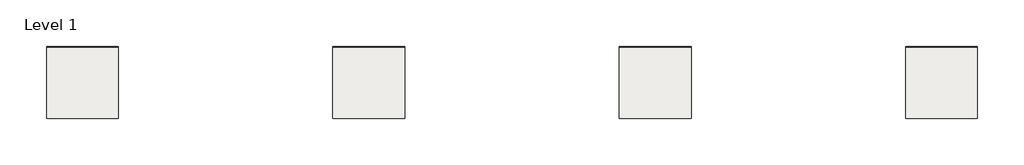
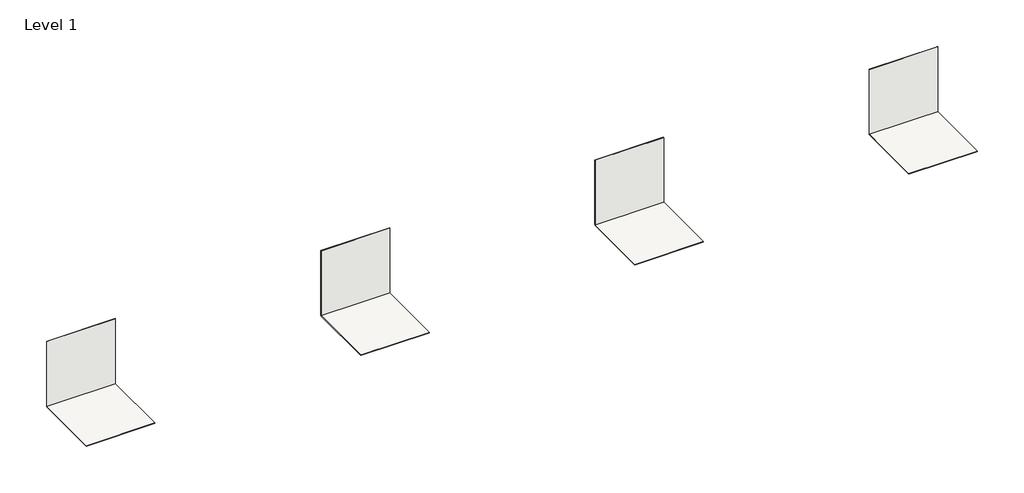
# One storey: 8 coverings.
"""IFC4 building model written with IfcOpenShell, lengths in millimetres."""

from ifc_helpers import new_model, si_unit, frame, origin, origin_with_axes, place, context, project, spatial, polyline, outline, extrude, element, save

model = new_model("IFC4")

# Units and contexts
model_context = context("Model", 3, world=origin())
ifc_project = project(units=[si_unit("LENGTHUNIT", "METRE", prefix="MILLI")], contexts=[model_context])

# Site, building, storey
site = spatial("IfcSite", under=ifc_project)
building = spatial("IfcBuilding", under=site)
storey = spatial("IfcBuildingStorey", under=building, Name="Level 1", Elevation=0.0)

# Coverings
placement = place(None, origin())
element("IfcCovering", 1, ObjectType="REVIGRES-ELEMENTS-STRATUS36-29.5x29.5-SOFT-MIST", at=placement, inside=storey, context=model_context, shape_type="SweptSolid", body=[
    extrude(outline(polyline([(13471.0931801, -9106.6692473), (12471.0931801, -9106.6692473), (12471.0931801, -9098.1692473), (13471.0931801, -9098.1692473), (13471.0931801, -9106.6692473)])), origin_with_axes(), (0.0, 0.0, 1.0), 1000.0),
])
element("IfcCovering", 2, ObjectType="REVIGRES-ELEMENTS-STRATUS36-29.5x29.5-SOFT-MIST", at=placement, inside=storey, context=model_context, shape_type="SweptSolid", body=[
    extrude(outline(polyline([(13471.0931801, -9106.6692473), (13471.0931801, -10106.6692473), (12471.0931801, -10106.6692473), (12471.0931801, -9106.6692473), (13471.0931801, -9106.6692473)])), frame((0.0, 0.0, -8.5), z_axis=(0.0, 0.0, 1.0), x_axis=(1.0, 0.0, 0.0)), (0.0, 0.0, 1.0), 8.5),
])
element("IfcCovering", 3, ObjectType="REVIGRES-ELEMENTS-STRATUS36-29.5x29.5-SOFT-SMOKE", at=placement, inside=storey, context=model_context, shape_type="SweptSolid", body=[
    extrude(outline(polyline([(17471.0931801, -9106.6692473), (16471.0931801, -9106.6692473), (16471.0931801, -9098.1692473), (17471.0931801, -9098.1692473), (17471.0931801, -9106.6692473)])), origin_with_axes(), (0.0, 0.0, 1.0), 1000.0),
])
element("IfcCovering", 4, ObjectType="REVIGRES-ELEMENTS-STRATUS36-29.5x29.5-SOFT-SMOKE", at=placement, inside=storey, context=model_context, shape_type="SweptSolid", body=[
    extrude(outline(polyline([(17471.0931801, -9106.6692473), (17471.0931801, -10106.6692473), (16471.0931801, -10106.6692473), (16471.0931801, -9106.6692473), (17471.0931801, -9106.6692473)])), frame((0.0, 0.0, -8.5), z_axis=(0.0, 0.0, 1.0), x_axis=(1.0, 0.0, 0.0)), (0.0, 0.0, 1.0), 8.5),
])
element("IfcCovering", 5, ObjectType="REVIGRES-ELEMENTS-STRATUS36-29.5x29.5-SOFT-FOG", at=placement, inside=storey, context=model_context, shape_type="SweptSolid", body=[
    extrude(outline(polyline([(8471.0931801, -9098.1692473), (9471.0931801, -9098.1692473), (9471.0931801, -9106.6692473), (8471.0931801, -9106.6692473), (8471.0931801, -9098.1692473)])), origin_with_axes(), (0.0, 0.0, 1.0), 1000.0),
])
element("IfcCovering", 6, ObjectType="REVIGRES-ELEMENTS-STRATUS36-29.5x29.5-SOFT-FOG", at=placement, inside=storey, context=model_context, shape_type="SweptSolid", body=[
    extrude(outline(polyline([(8471.0931801, -9106.6692473), (9471.0931801, -9106.6692473), (9471.0931801, -10106.6692473), (8471.0931801, -10106.6692473), (8471.0931801, -9106.6692473)])), frame((0.0, 0.0, -8.5), z_axis=(0.0, 0.0, 1.0), x_axis=(1.0, 0.0, 0.0)), (0.0, 0.0, 1.0), 8.5),
])
element("IfcCovering", 7, ObjectType="REVIGRES-ELEMENTS-STRATUS36-29.5x29.5-SOFT-CARBON", at=placement, inside=storey, context=model_context, shape_type="SweptSolid", body=[
    extrude(outline(polyline([(4471.0931801, -9098.1692473), (5471.0931801, -9098.1692473), (5471.0931801, -9106.6692473), (4471.0931801, -9106.6692473), (4471.0931801, -9098.1692473)])), origin_with_axes(), (0.0, 0.0, 1.0), 1000.0),
])
element("IfcCovering", 8, ObjectType="REVIGRES-ELEMENTS-STRATUS36-29.5x29.5-SOFT-CARBON", at=placement, inside=storey, context=model_context, shape_type="SweptSolid", body=[
    extrude(outline(polyline([(4471.0931801, -9106.6692473), (5471.0931801, -9106.6692473), (5471.0931801, -10106.6692473), (4471.0931801, -10106.6692473), (4471.0931801, -9106.6692473)])), frame((0.0, 0.0, -8.5), z_axis=(0.0, 0.0, 1.0), x_axis=(1.0, 0.0, 0.0)), (0.0, 0.0, 1.0), 8.5),
])

save(model, "model.ifc")
